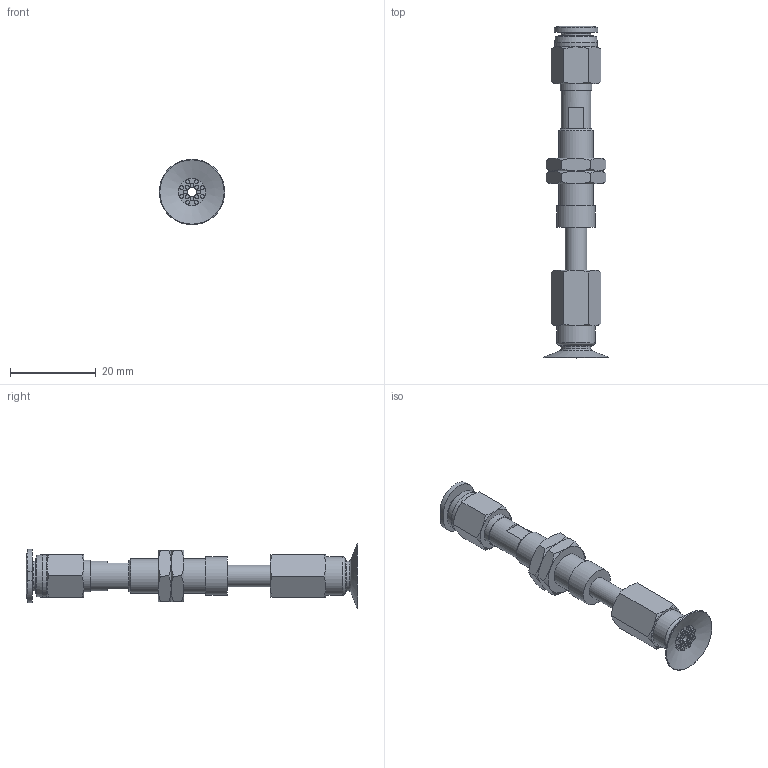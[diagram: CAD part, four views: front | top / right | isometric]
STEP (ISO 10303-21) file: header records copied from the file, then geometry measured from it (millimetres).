
FILE_DESCRIPTION(('STEP AP203'),'1');
FILE_NAME('-O.stp','2025-08-26T08:47:21',(' '),(' '),'Spatial InterOp 3D',' ',' ');
FILE_SCHEMA(('CONFIG_CONTROL_DESIGN'));
Length unit declared in the file: millimetre
Products named in the file (7): BNABPATS-15A-10-※-O; ADAPTER; NAPATS-10A-10--M; NAPATS-10A-10--F; Nut-10A-S; PC-C_06-M5; BPAG-15A-※_3D
Assembly tree (7 placements, depth 2):
  BNABPATS-15A-10-※-O
    ADAPTER
    NAPATS-10A-10--M
    NAPATS-10A-10--F
    Nut-10A-S  x2
    PC-C_06-M5
    BPAG-15A-※_3D
Bounding box: 15.3 x 77.48 x 15.3 mm (x, y, z)
Volume: 3523.5 mm3; surface area: 5388.4 mm2
Topology: 6 solids, 9 shells, 195 faces, 383 edges, 234 vertices
Faces by surface type: plane 74, cone 61, cylinder 42, torus 11, bspline 4, revolution 3
Full cylindrical faces by diameter (mm): 0.9 x16, 2 x3, 4 x4, 4.134 x1, 5 x3, 6 x2, 7 x3, 7.188 x2, 7.4 x1, 8 x1, 8.2 x1, 9 x2, 10 x1
Entity records: 4776 total; most frequent: CARTESIAN_POINT 1275, DIRECTION 675, ORIENTED_EDGE 520, AXIS2_PLACEMENT_3D 316, EDGE_LOOP 276, EDGE_CURVE 262, VERTEX_POINT 196, FACE_OUTER_BOUND 162
